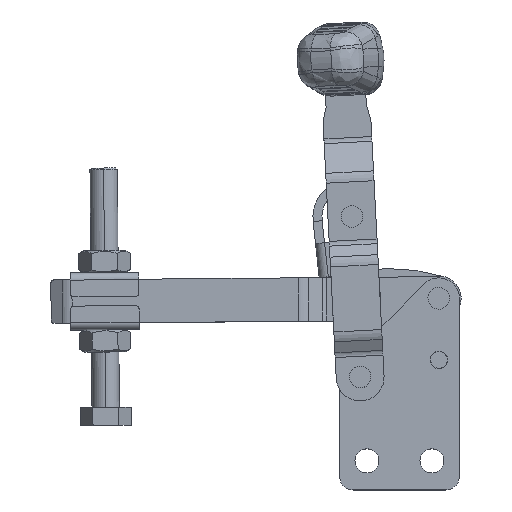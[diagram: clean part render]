
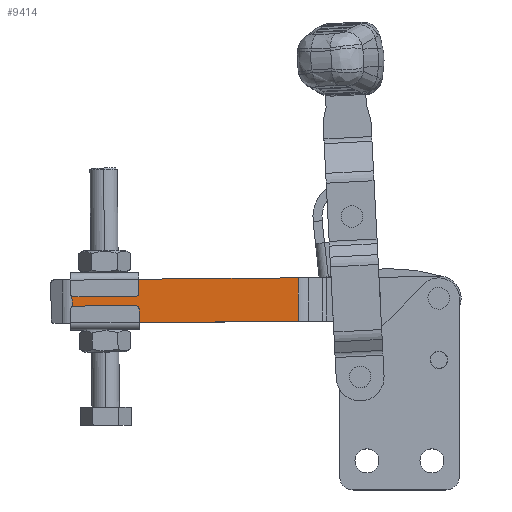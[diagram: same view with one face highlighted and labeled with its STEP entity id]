
A CAD part, top view. The second image highlights one B-rep face of the part: STEP entity #9414.
In plain terms, the highlighted planar face has unit normal (0, 0, 1) as drawn and (1, 0, 0) by its records, which use the part's own axes.
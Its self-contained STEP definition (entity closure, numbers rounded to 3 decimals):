
#2032 = CARTESIAN_POINT ( 'NONE',  ( 5.656, 40.56, 6.35 ) ) ;
#3718 = PLANE ( 'NONE',  #5800 ) ;
#4691 = DIRECTION ( 'NONE',  ( 0., 0., -1. ) ) ;
#4760 = CARTESIAN_POINT ( 'NONE',  ( 5.656, -25.577, 6.35 ) ) ;
#4834 = VECTOR ( 'NONE', #4691, 1000. ) ;
#5238 = DIRECTION ( 'NONE',  ( 0., -1., 0. ) ) ;
#5659 = EDGE_CURVE ( 'NONE', #8285, #23947, #23555, .T. ) ;
#5800 = AXIS2_PLACEMENT_3D ( 'NONE', #6508, #25783, #9257 ) ;
#6311 = VECTOR ( 'NONE', #15720, 1000. ) ;
#6508 = CARTESIAN_POINT ( 'NONE',  ( 5.656, 41.2, 6.35 ) ) ;
#6956 = ORIENTED_EDGE ( 'NONE', *, *, #18144, .F. ) ;
#7338 = CARTESIAN_POINT ( 'NONE',  ( 5.656, -25.577, 6.35 ) ) ;
#8285 = VERTEX_POINT ( 'NONE', #2032 ) ;
#8820 = LINE ( 'NONE', #10756, #17011 ) ;
#9257 = DIRECTION ( 'NONE',  ( 0., 1., 0. ) ) ;
#9414 = ADVANCED_FACE ( 'NONE', ( #19533 ), #3718, .T. ) ;
#9532 = DIRECTION ( 'NONE',  ( 0., 0., -1. ) ) ;
#10756 = CARTESIAN_POINT ( 'NONE',  ( 5.656, 41.2, -6.35 ) ) ;
#10808 = EDGE_CURVE ( 'NONE', #23947, #34229, #27675, .T. ) ;
#14860 = CARTESIAN_POINT ( 'NONE',  ( 5.656, -25.577, -6.35 ) ) ;
#15720 = DIRECTION ( 'NONE',  ( 0., -1., 0. ) ) ;
#17011 = VECTOR ( 'NONE', #5238, 1000. ) ;
#18144 = EDGE_CURVE ( 'NONE', #8285, #22351, #35273, .T. ) ;
#18512 = CARTESIAN_POINT ( 'NONE',  ( 5.656, 41.2, 6.35 ) ) ;
#19533 = FACE_OUTER_BOUND ( 'NONE', #26200, .T. ) ;
#20615 = CARTESIAN_POINT ( 'NONE',  ( 5.656, 40.56, 6.35 ) ) ;
#22351 = VERTEX_POINT ( 'NONE', #33697 ) ;
#23555 = LINE ( 'NONE', #18512, #6311 ) ;
#23947 = VERTEX_POINT ( 'NONE', #4760 ) ;
#24756 = ORIENTED_EDGE ( 'NONE', *, *, #10808, .T. ) ;
#25783 = DIRECTION ( 'NONE',  ( 1., 0., 0. ) ) ;
#26200 = EDGE_LOOP ( 'NONE', ( #29357, #6956, #35420, #24756 ) ) ;
#26375 = EDGE_CURVE ( 'NONE', #22351, #34229, #8820, .T. ) ;
#27675 = LINE ( 'NONE', #7338, #4834 ) ;
#29357 = ORIENTED_EDGE ( 'NONE', *, *, #26375, .F. ) ;
#33697 = CARTESIAN_POINT ( 'NONE',  ( 5.656, 40.56, -6.35 ) ) ;
#34229 = VERTEX_POINT ( 'NONE', #14860 ) ;
#34396 = VECTOR ( 'NONE', #9532, 1000. ) ;
#35273 = LINE ( 'NONE', #20615, #34396 ) ;
#35420 = ORIENTED_EDGE ( 'NONE', *, *, #5659, .T. ) ;
